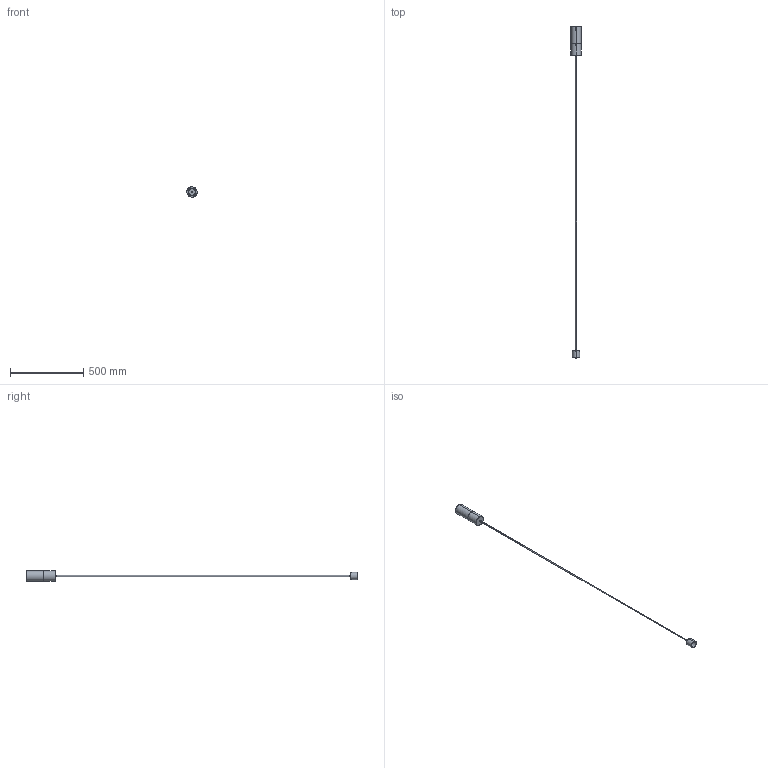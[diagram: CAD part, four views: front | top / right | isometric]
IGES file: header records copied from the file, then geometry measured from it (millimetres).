
Start section: SolidWorks IGES file using analytic representation for surfaces
Global section: file name: C:\Users\Agus\Desktop\AROMAS\PROPUESTAS ENERO 2020\1220\C1220\C1220.IGS; native system: SolidWorks 2018; preprocessor: SolidWorks 2018; author: Agus; date: 200406.111153; units: millimetre
Bounding box: 70 x 2270 x 70 mm (x, y, z)
Surface area: 139599.8 mm2 (no closed solid volume)
Topology: 0 solids, 0 shells, 35 faces, 920 edges, 920 vertices
Faces by surface type: bspline 19, revolution 16
